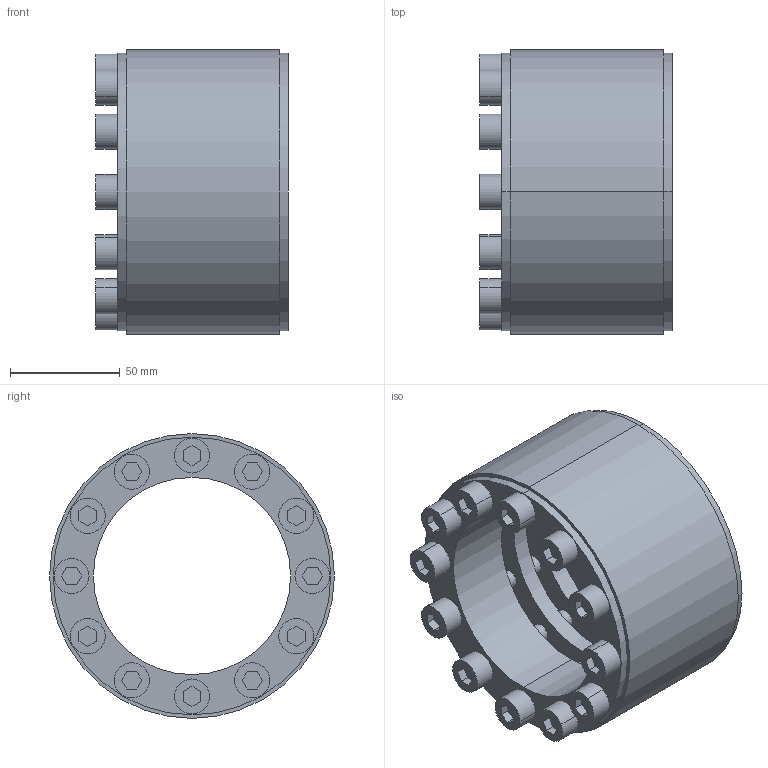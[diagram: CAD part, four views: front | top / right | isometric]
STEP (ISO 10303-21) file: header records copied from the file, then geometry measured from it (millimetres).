
FILE_DESCRIPTION (( 'STEP AP203' ), '1' );
FILE_NAME ('SF-90.STEP', '2009-09-29T17:21:12', ( 'USER' ), ( 'HOME' ), 'SwSTEP 2.0', 'SolidWorks 2007', '' );
FILE_SCHEMA (( 'CONFIG_CONTROL_DESIGN' ));
Length unit declared in the file: millimetre
Products named in the file (1): SF-90
Bounding box: 88 x 130 x 130 mm (x, y, z)
Volume: 470190.2 mm3; surface area: 142368.8 mm2
Topology: 13 solids, 13 shells, 264 faces, 624 edges, 416 vertices
Faces by surface type: cylinder 136, plane 128
Entity records: 7901 total; most frequent: DIRECTION 1426, CARTESIAN_POINT 1305, ORIENTED_EDGE 1248, EDGE_CURVE 624, AXIS2_PLACEMENT_3D 537, VERTEX_POINT 416, EDGE_LOOP 368, VECTOR 352
